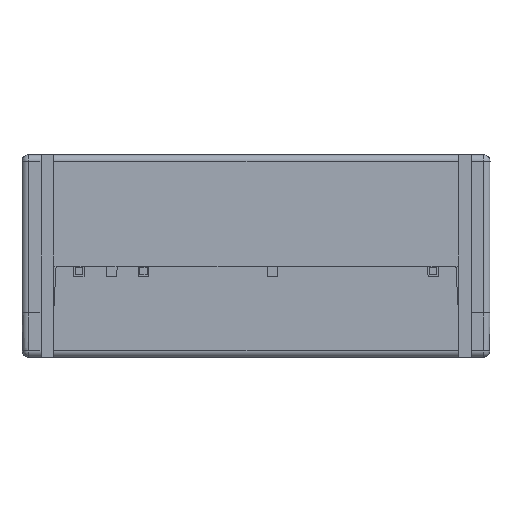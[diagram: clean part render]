
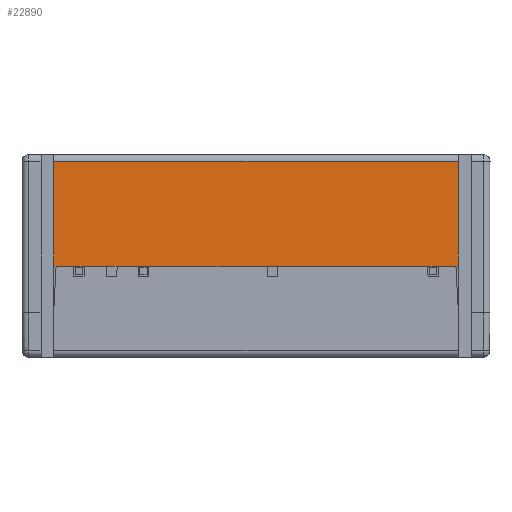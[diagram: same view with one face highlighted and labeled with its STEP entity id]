
A CAD part, front view. The second image highlights one B-rep face of the part: STEP entity #22890.
In plain terms, the highlighted planar face has unit normal (0, -1, 0.009).
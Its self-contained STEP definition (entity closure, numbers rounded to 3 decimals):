
#4200=CARTESIAN_POINT('',(-16.,-15.928,15.504));
#4210=VERTEX_POINT('',#4200);
#4240=CARTESIAN_POINT('',(-16.,-16.063,0.));
#4250=DIRECTION('',(0.,0.009,1.));
#4260=VECTOR('',#4250,1.);
#4270=LINE('',#4240,#4260);
#4280=CARTESIAN_POINT('',(-16.,-16.,7.2));
#4290=VERTEX_POINT('',#4280);
#4300=EDGE_CURVE('',#4290,#4210,#4270,.T.);
#11860=CARTESIAN_POINT('',(1.714,-16.,
7.2));
#11870=VERTEX_POINT('',#11860);
#14070=CARTESIAN_POINT('',(-9.314,-16.,
7.2));
#14080=VERTEX_POINT('',#14070);
#14110=CARTESIAN_POINT('',(0.,-16.,7.2));
#14120=DIRECTION('',(1.,0.,0.));
#14130=VECTOR('',#14120,1.);
#14140=LINE('',#14110,#14130);
#14150=CARTESIAN_POINT('',(-8.486,-16.,7.2));
#14160=VERTEX_POINT('',#14150);
#14170=EDGE_CURVE('',#14080,#14160,#14140,.T.);
#14390=CARTESIAN_POINT('',(15.806,-16.,
7.2));
#14400=VERTEX_POINT('',#14390);
#22160=CARTESIAN_POINT('',(0.,-16.,7.2));
#22170=DIRECTION('',(0.,-1.,0.009));
#22180=DIRECTION('',(-1.,0.,0.));
#22190=AXIS2_PLACEMENT_3D('',#22160,#22170,#22180);
#22200=PLANE('',#22190);
#22210=CARTESIAN_POINT('',(16.,-16.063,0.));
#22220=DIRECTION('',(0.,-0.009,-1.));
#22230=VECTOR('',#22220,1.);
#22240=LINE('',#22210,#22230);
#22250=CARTESIAN_POINT('',(16.,-15.928,15.504));
#22260=VERTEX_POINT('',#22250);
#22270=CARTESIAN_POINT('',(16.,-16.,7.2));
#22280=VERTEX_POINT('',#22270);
#22290=EDGE_CURVE('',#22260,#22280,#22240,.T.);
#22300=ORIENTED_EDGE('',*,*,#22290,.F.);
#22310=EDGE_CURVE('',#14400,#22280,#14140,.T.);
#22320=ORIENTED_EDGE('',*,*,#22310,.T.);
#22330=CARTESIAN_POINT('',(0.,-16.,7.2));
#22340=DIRECTION('',(1.,0.,0.));
#22350=VECTOR('',#22340,1.);
#22360=LINE('',#22330,#22350);
#22370=CARTESIAN_POINT('',(14.414,-16.,
7.2));
#22380=VERTEX_POINT('',#22370);
#22390=EDGE_CURVE('',#22380,#14400,#22360,.T.);
#22400=ORIENTED_EDGE('',*,*,#22390,.T.);
#22410=CARTESIAN_POINT('',(13.586,-16.,7.2));
#22420=VERTEX_POINT('',#22410);
#22430=EDGE_CURVE('',#22420,#22380,#14140,.T.);
#22440=ORIENTED_EDGE('',*,*,#22430,.T.);
#22450=EDGE_CURVE('',#11870,#22420,#22360,.T.);
#22460=ORIENTED_EDGE('',*,*,#22450,.T.);
#22470=CARTESIAN_POINT('',(0.886,-16.,7.2));
#22480=VERTEX_POINT('',#22470);
#22490=EDGE_CURVE('',#22480,#11870,#14140,.T.);
#22500=ORIENTED_EDGE('',*,*,#22490,.T.);
#22510=CARTESIAN_POINT('',(0.,-16.,7.2));
#22520=DIRECTION('',(-1.,0.,0.));
#22530=VECTOR('',#22520,1.);
#22540=LINE('',#22510,#22530);
#22550=EDGE_CURVE('',#22480,#14160,#22540,.T.);
#22560=ORIENTED_EDGE('',*,*,#22550,.F.);
#22570=ORIENTED_EDGE('',*,*,#14170,.T.);
#22580=CARTESIAN_POINT('',(-10.986,-16.,
7.2));
#22590=VERTEX_POINT('',#22580);
#22600=EDGE_CURVE('',#22590,#14080,#22360,.T.);
#22610=ORIENTED_EDGE('',*,*,#22600,.T.);
#22620=CARTESIAN_POINT('',(-11.814,-16.,7.2));
#22630=VERTEX_POINT('',#22620);
#22640=EDGE_CURVE('',#22630,#22590,#14140,.T.);
#22650=ORIENTED_EDGE('',*,*,#22640,.T.);
#22660=CARTESIAN_POINT('',(-13.586,-16.,7.2));
#22670=VERTEX_POINT('',#22660);
#22680=EDGE_CURVE('',#22670,#22630,#22360,.T.);
#22690=ORIENTED_EDGE('',*,*,#22680,.T.);
#22700=CARTESIAN_POINT('',(-14.414,-16.,
7.2));
#22710=VERTEX_POINT('',#22700);
#22720=EDGE_CURVE('',#22710,#22670,#14140,.T.);
#22730=ORIENTED_EDGE('',*,*,#22720,.T.);
#22740=CARTESIAN_POINT('',(-15.806,-16.,
7.2));
#22750=VERTEX_POINT('',#22740);
#22760=EDGE_CURVE('',#22750,#22710,#22360,.T.);
#22770=ORIENTED_EDGE('',*,*,#22760,.T.);
#22780=EDGE_CURVE('',#4290,#22750,#14140,.T.);
#22790=ORIENTED_EDGE('',*,*,#22780,.T.);
#22800=ORIENTED_EDGE('',*,*,#4300,.F.);
#22810=CARTESIAN_POINT('',(0.,-15.928,15.504));
#22820=DIRECTION('',(1.,0.,0.));
#22830=VECTOR('',#22820,1.);
#22840=LINE('',#22810,#22830);
#22850=EDGE_CURVE('',#4210,#22260,#22840,.T.);
#22860=ORIENTED_EDGE('',*,*,#22850,.F.);
#22870=EDGE_LOOP('',(#22860,#22800,#22790,#22770,#22730,#22690,#22650,
#22610,#22570,#22560,#22500,#22460,#22440,#22400,#22320,#22300));
#22880=FACE_OUTER_BOUND('',#22870,.T.);
#22890=ADVANCED_FACE('',(#22880),#22200,.T.);
